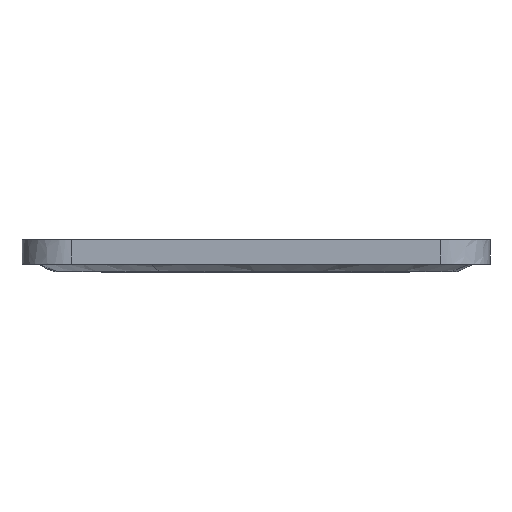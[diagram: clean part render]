
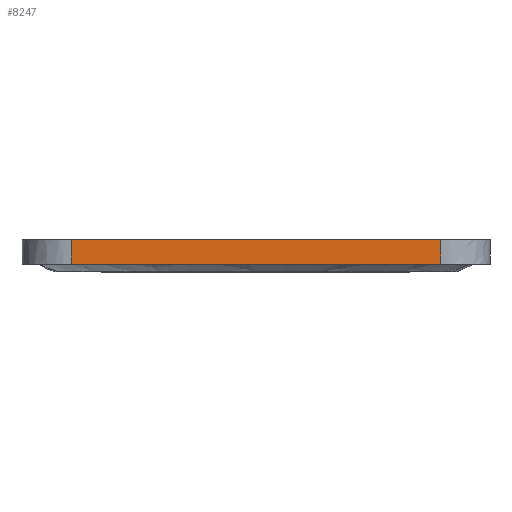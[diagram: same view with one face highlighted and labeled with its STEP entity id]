
A CAD part, front view. The second image highlights one B-rep face of the part: STEP entity #8247.
In plain terms, the highlighted planar face has unit normal (0, -1, 0).
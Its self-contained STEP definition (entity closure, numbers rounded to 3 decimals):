
#1211 = CARTESIAN_POINT ( 'NONE',  ( -45., -79., 0. ) ) ;
#1213 = CARTESIAN_POINT ( 'NONE',  ( -45., -79., -6. ) ) ;
#1216 = CARTESIAN_POINT ( 'NONE',  ( 45., -79., 0. ) ) ;
#1218 = CARTESIAN_POINT ( 'NONE',  ( 45., -79., -6. ) ) ;
#2306 = DIRECTION ( 'NONE',  ( 0., 0., 1. ) ) ;
#2307 = DIRECTION ( 'NONE',  ( 0., 1., 0. ) ) ;
#2312 = PLANE ( 'NONE',  #9593 ) ;
#2316 = CARTESIAN_POINT ( 'NONE',  ( -45., -79., -6. ) ) ;
#3885 = CARTESIAN_POINT ( 'NONE',  ( -45., -79., -6. ) ) ;
#3896 = CARTESIAN_POINT ( 'NONE',  ( 45., -79., -6. ) ) ;
#3897 = DIRECTION ( 'NONE',  ( 0., 0., -1. ) ) ;
#3900 = CARTESIAN_POINT ( 'NONE',  ( -45., -79., -4. ) ) ;
#3901 = CARTESIAN_POINT ( 'NONE',  ( -45., -79., -2. ) ) ;
#3902 = CARTESIAN_POINT ( 'NONE',  ( -45., -79., 0. ) ) ;
#3958 = CARTESIAN_POINT ( 'NONE',  ( -57., -79., -6. ) ) ;
#3959 = DIRECTION ( 'NONE',  ( -1., 0., 0. ) ) ;
#4134 = B_SPLINE_CURVE_WITH_KNOTS ( 'NONE', 3,
 ( #3885, #3900, #3901, #3902 ),
 .UNSPECIFIED., .F., .F.,
 ( 4, 4 ),
 ( 0., 1. ),
 .UNSPECIFIED. ) ;
#4260 = CARTESIAN_POINT ( 'NONE',  ( -45., -79., 0. ) ) ;
#4261 = DIRECTION ( 'NONE',  ( -1., 0., 0. ) ) ;
#8247 = ADVANCED_FACE ( 'NONE', ( #10869 ), #2312, .F. ) ;
#9593 = AXIS2_PLACEMENT_3D ( 'NONE', #2316, #2307, #2306 ) ;
#9756 = EDGE_LOOP ( 'NONE', ( #12267, #12297, #12292, #12276 ) ) ;
#10869 = FACE_OUTER_BOUND ( 'NONE', #9756, .T. ) ;
#11218 = VECTOR ( 'NONE', #3897, 1000. ) ;
#11222 = LINE ( 'NONE', #3896, #11218 ) ;
#11235 = LINE ( 'NONE', #3958, #11236 ) ;
#11236 = VECTOR ( 'NONE', #3959, 1000. ) ;
#11239 = VECTOR ( 'NONE', #4261, 1000. ) ;
#11242 = LINE ( 'NONE', #4260, #11239 ) ;
#11840 = VERTEX_POINT ( 'NONE', #1211 ) ;
#11842 = VERTEX_POINT ( 'NONE', #1213 ) ;
#11845 = VERTEX_POINT ( 'NONE', #1216 ) ;
#11847 = VERTEX_POINT ( 'NONE', #1218 ) ;
#12267 = ORIENTED_EDGE ( 'NONE', *, *, #12767, .F. ) ;
#12276 = ORIENTED_EDGE ( 'NONE', *, *, #12787, .T. ) ;
#12292 = ORIENTED_EDGE ( 'NONE', *, *, #12765, .F. ) ;
#12297 = ORIENTED_EDGE ( 'NONE', *, *, #12776, .F. ) ;
#12765 = EDGE_CURVE ( 'NONE', #11845, #11847, #11222, .T. ) ;
#12767 = EDGE_CURVE ( 'NONE', #11842, #11840, #4134, .T. ) ;
#12776 = EDGE_CURVE ( 'NONE', #11847, #11842, #11235, .T. ) ;
#12787 = EDGE_CURVE ( 'NONE', #11845, #11840, #11242, .T. ) ;
